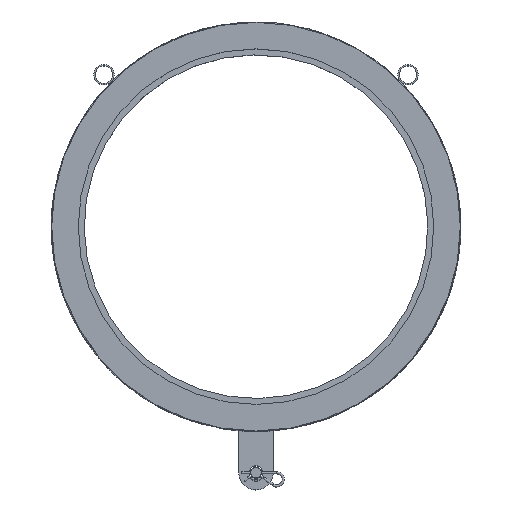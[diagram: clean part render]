
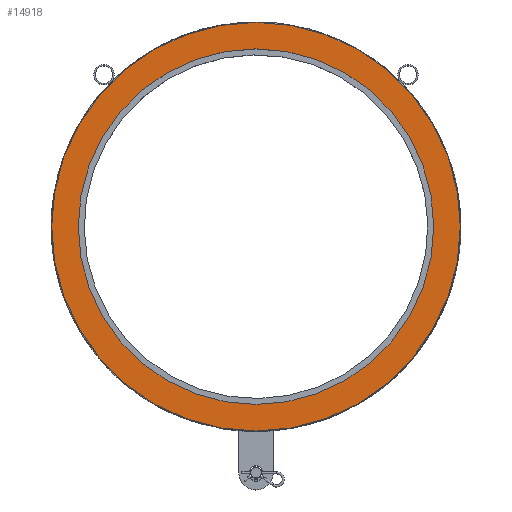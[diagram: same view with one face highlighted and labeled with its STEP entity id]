
A CAD part, top view. The second image highlights one B-rep face of the part: STEP entity #14918.
In plain terms, the highlighted planar face has unit normal (0, 0, 1).
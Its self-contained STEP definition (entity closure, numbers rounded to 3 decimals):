
#481=FACE_BOUND('',#3274,.T.);
#1575=PLANE('',#15762);
#2371=FACE_OUTER_BOUND('',#3273,.T.);
#3273=EDGE_LOOP('',(#13672));
#3274=EDGE_LOOP('',(#13673));
#5767=CIRCLE('',#15758,388.);
#5768=CIRCLE('',#15760,446.);
#7213=VERTEX_POINT('',#34839);
#7214=VERTEX_POINT('',#34843);
#9383=EDGE_CURVE('',#7213,#7213,#5767,.T.);
#9385=EDGE_CURVE('',#7214,#7214,#5768,.T.);
#13672=ORIENTED_EDGE('',*,*,#9385,.F.);
#13673=ORIENTED_EDGE('',*,*,#9383,.T.);
#14918=ADVANCED_FACE('',(#2371,#481),#1575,.T.);
#15758=AXIS2_PLACEMENT_3D('',#34840,#18385,#18386);
#15760=AXIS2_PLACEMENT_3D('',#34844,#18390,#18391);
#15762=AXIS2_PLACEMENT_3D('',#34847,#18395,#18396);
#18385=DIRECTION('center_axis',(0.,0.,
-1.));
#18386=DIRECTION('ref_axis',(-1.,0.,0.));
#18390=DIRECTION('center_axis',(0.,0.,
-1.));
#18391=DIRECTION('ref_axis',(-1.,0.,0.));
#18395=DIRECTION('center_axis',(0.,0.,
1.));
#18396=DIRECTION('ref_axis',(-1.,0.,0.));
#34839=CARTESIAN_POINT('',(388.,0.,140.));
#34840=CARTESIAN_POINT('Origin',(0.,0.,
140.));
#34843=CARTESIAN_POINT('',(446.,0.,140.));
#34844=CARTESIAN_POINT('Origin',(0.,0.,
140.));
#34847=CARTESIAN_POINT('Origin',(0.,0.,
140.));
